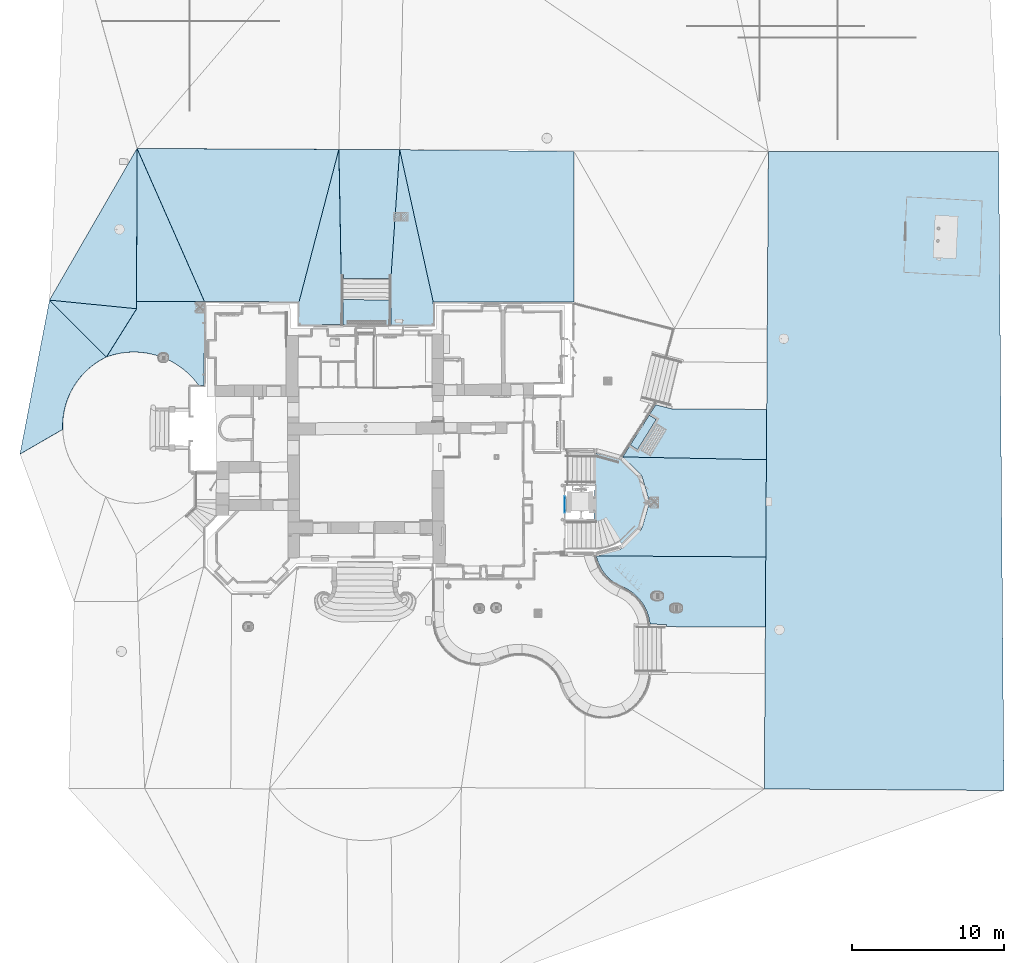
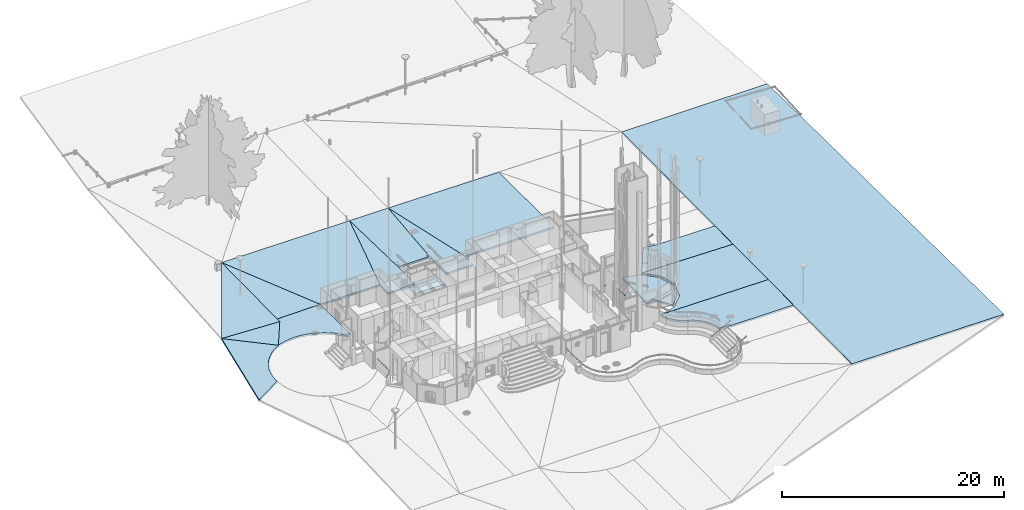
# One storey, part 7 of 133: 17 slabs, 1 plate, 1 element without a shape of its own.
"""IFC2X3 building model written with IfcOpenShell, lengths in centimetres."""

import ifcopenshell
import ifcopenshell.guid

model = None  # the IFC model being written
_history = None  # IfcOwnerHistory: only IFC2X3 demands one
_inside = {}  # id of a spatial element -> (the spatial element, [elements in it])
_under = {}  # id of a project, library or spatial element -> (it, [spatial elements below it])
_declared = {}  # id of a project -> (the project, [libraries it declares])
_typed = {}  # id of a type object -> (the type object, [elements of that type])
_made_of = {}  # id of a material, layer set ... -> (it, [elements and type objects made of it])


def new_model(schema):
    """Start an empty IFC model of exactly this schema.

    Asked for "IFC4X3", IfcOpenShell would pick the latest addendum, in which some entities
    have other attributes; the version numbers below select the first issue.
    IFC2X3 requires an IfcOwnerHistory on every rooted entity: one is made here for all.
    """
    global model, _history
    if schema == "IFC4X3":
        model = ifcopenshell.file(schema_version=(4, 3, 0, 0))
    else:
        model = ifcopenshell.file(schema=schema)
    _inside.clear()
    _under.clear()
    _declared.clear()
    _typed.clear()
    _made_of.clear()
    _history = None
    if model.schema == "IFC2X3":
        org = make("IfcOrganization", Name="unknown")
        user = make(
            "IfcPersonAndOrganization",
            ThePerson=make("IfcPerson", FamilyName="unknown"),
            TheOrganization=org,
        )
        app = make(
            "IfcApplication",
            ApplicationDeveloper=org,
            Version="unknown",
            ApplicationFullName="unknown",
            ApplicationIdentifier="unknown",
        )
        _history = make(
            "IfcOwnerHistory",
            OwningUser=user,
            OwningApplication=app,
            ChangeAction="ADDED",
            CreationDate=0,
        )
    return model


def make(cls, **values):
    """One entity of the class cls with the attributes given. An attribute that is None is left unset."""
    return model.create_entity(
        cls, **{name: value for name, value in values.items() if value is not None}
    )


def entity(cls, *values):
    """Any entity or typed value of the class cls, its attributes in the order of the schema. None: left unset."""
    e = model.create_entity(cls)
    for i, value in enumerate(values):
        if value is not None:
            e[i] = value
    return e


def rooted(cls, **values):
    """An entity with a GlobalId (a new one), such as an element, a storey or a relation."""
    return make(cls, GlobalId=ifcopenshell.guid.new(), OwnerHistory=_history, **values)


def si_unit(unit_type, name, prefix=None):
    """IfcSIUnit, for example si_unit("LENGTHUNIT", "METRE", prefix="MILLI")."""
    return make("IfcSIUnit", UnitType=unit_type, Prefix=prefix, Name=name)


def converted_unit(unit_type, name, factor, base, dimensions=None, offset=None):
    """IfcConversionBasedUnit, such as the inch: factor (a typed value) times the base unit."""
    return make(
        "IfcConversionBasedUnit"
        if offset is None
        else "IfcConversionBasedUnitWithOffset",
        ConversionOffset=offset,
        Dimensions=None
        if dimensions is None
        else entity("IfcDimensionalExponents", *dimensions),
        UnitType=unit_type,
        Name=name,
        ConversionFactor=make(
            "IfcMeasureWithUnit", ValueComponent=factor, UnitComponent=base
        ),
    )


def assignment(units):
    """IfcUnitAssignment: the units of a project."""
    return None if units is None else make("IfcUnitAssignment", Units=units)


def point(xyz):
    """IfcCartesianPoint."""
    return None if xyz is None else make("IfcCartesianPoint", Coordinates=xyz)


def direction(xyz):
    """IfcDirection."""
    return None if xyz is None else make("IfcDirection", DirectionRatios=xyz)


def frame(location, z_axis=None, x_axis=None):
    """IfcAxis2Placement3D, a coordinate frame: its origin and axes. An axis left out is left unset."""
    return make(
        "IfcAxis2Placement3D",
        Location=point(location),
        Axis=direction(z_axis),
        RefDirection=direction(x_axis),
    )


def frame_2d(location, x_axis=None):
    """IfcAxis2Placement2D, a coordinate frame in the plane: its origin and x axis."""
    return make(
        "IfcAxis2Placement2D", Location=point(location), RefDirection=direction(x_axis)
    )


def origin():
    """The frame at (0, 0, 0) with its axes left unset."""
    return frame((0.0, 0.0, 0.0))


def origin_with_axes():
    """The frame at (0, 0, 0) with the z axis (0, 0, 1) and the x axis (1, 0, 0) written out."""
    return frame((0.0, 0.0, 0.0), z_axis=(0.0, 0.0, 1.0), x_axis=(1.0, 0.0, 0.0))


def place(relative_to, where):
    """IfcLocalPlacement: puts the frame where relative to a parent placement (None: the world)."""
    return make(
        "IfcLocalPlacement", PlacementRelTo=relative_to, RelativePlacement=where
    )


def context(
    kind, dimensions, precision=None, world=None, true_north=None, identifier=None
):
    """IfcGeometricRepresentationContext, for example the 3D "Model" context."""
    return make(
        "IfcGeometricRepresentationContext",
        ContextIdentifier=identifier,
        ContextType=kind,
        CoordinateSpaceDimension=dimensions,
        Precision=precision,
        WorldCoordinateSystem=world,
        TrueNorth=true_north,
    )


def subcontext(parent, identifier, kind, view, scale=None):
    """IfcGeometricRepresentationSubContext, for example "Body" below "Model"."""
    return make(
        "IfcGeometricRepresentationSubContext",
        ContextIdentifier=identifier,
        ContextType=kind,
        ParentContext=parent,
        TargetScale=scale,
        TargetView=view,
    )


def project(units=None, contexts=None):
    """IfcProject with its units and contexts."""
    return rooted(
        "IfcProject",
        Name="project",
        RepresentationContexts=contexts,
        UnitsInContext=assignment(units),
    )


def spatial(cls, under=None, at=None, **own):
    """A site, building, storey or space (cls), placed at a placement, below another one or the project."""
    s = rooted(cls, ObjectPlacement=at, **own)
    if under is not None:
        _under.setdefault(under.id(), (under, []))[1].append(s)
    return s


def polyline(points):
    """IfcPolyline through the points."""
    return make("IfcPolyline", Points=[point(p) for p in points])


def circle_curve(where, radius):
    """IfcCircle in the frame where."""
    return make("IfcCircle", Position=where, Radius=radius)


def trimmed(basis, trim1, trim2, sense, master):
    """IfcTrimmedCurve: the piece of a basis curve between two trims."""
    return make(
        "IfcTrimmedCurve",
        BasisCurve=basis,
        Trim1=trim1,
        Trim2=trim2,
        SenseAgreement=sense,
        MasterRepresentation=master,
    )


def segment(curve, same_sense, transition):
    """IfcCompositeCurveSegment."""
    return make(
        "IfcCompositeCurveSegment",
        Transition=transition,
        SameSense=same_sense,
        ParentCurve=curve,
    )


def composite_curve(segments, self_intersect=None):
    """IfcCompositeCurve: segments joined end to end."""
    return make("IfcCompositeCurve", Segments=segments, SelfIntersect=self_intersect)


def outline(outer, holes=None, kind="AREA"):
    """IfcArbitraryClosedProfileDef: a profile drawn as a closed curve; with holes, ...WithVoids."""
    if holes is None:
        return make("IfcArbitraryClosedProfileDef", ProfileType=kind, OuterCurve=outer)
    return make(
        "IfcArbitraryProfileDefWithVoids",
        ProfileType=kind,
        OuterCurve=outer,
        InnerCurves=holes,
    )


def extrude(swept, where, along, depth):
    """IfcExtrudedAreaSolid: the profile swept, set in the frame where, extruded along a direction by depth."""
    return make(
        "IfcExtrudedAreaSolid",
        SweptArea=swept,
        Position=where,
        ExtrudedDirection=direction(along),
        Depth=depth,
    )


def faces_of(points, faces, orient=None, outer=None):
    """IfcFace entities. A face is a list of loops; a loop is a list of indices into points, from 0.

    orient and outer hold one flag for each loop. By default every Orientation is true, the
    first loop of a face is its IfcFaceOuterBound and the others are IfcFaceBound.
    """
    made = []
    for i, loops in enumerate(faces):
        bounds = []
        for j, loop in enumerate(loops):
            is_outer = j == 0 if outer is None else outer[i][j]
            bounds.append(
                make(
                    "IfcFaceOuterBound" if is_outer else "IfcFaceBound",
                    Bound=make("IfcPolyLoop", Polygon=[points[k] for k in loop]),
                    Orientation=True if orient is None else orient[i][j],
                )
            )
        made.append(make("IfcFace", Bounds=bounds))
    return made


def faceted_brep(points, faces, orient=None, outer=None, voids=None):
    """IfcFacetedBrep: a solid bounded by flat faces; with voids (closed shells), ...WithVoids."""
    shared = [point(p) for p in points]
    hull = make("IfcClosedShell", CfsFaces=faces_of(shared, faces, orient, outer))
    if voids is None:
        return make("IfcFacetedBrep", Outer=hull)
    return make(
        "IfcFacetedBrepWithVoids",
        Outer=hull,
        Voids=[
            make(cls, CfsFaces=faces_of(shared, fs, o, b)) for cls, fs, o, b in voids
        ],
    )


def shape(context_of_items, identifier, shape_type, items):
    """IfcShapeRepresentation: the items that make up one representation, for example the "Body"."""
    return make(
        "IfcShapeRepresentation",
        ContextOfItems=context_of_items,
        RepresentationIdentifier=identifier,
        RepresentationType=shape_type,
        Items=items,
    )


def source(mapping_origin, context_of_items, identifier, shape_type, items):
    """IfcRepresentationMap: a shape defined once, which mapped items show again and again."""
    return make(
        "IfcRepresentationMap",
        MappingOrigin=mapping_origin,
        MappedRepresentation=shape(context_of_items, identifier, shape_type, items),
    )


def transform(
    local_origin,
    x_axis=None,
    y_axis=None,
    z_axis=None,
    scale=None,
    scale2=None,
    scale3=None,
    uniform=True,
):
    """IfcCartesianTransformationOperator3D, or its non-uniform kind. x_axis, y_axis, z_axis: its Axis1, 2, 3."""
    if uniform:
        return make(
            "IfcCartesianTransformationOperator3D",
            Axis1=direction(x_axis),
            Axis2=direction(y_axis),
            LocalOrigin=point(local_origin),
            Scale=scale,
            Axis3=direction(z_axis),
        )
    return make(
        "IfcCartesianTransformationOperator3DnonUniform",
        Axis1=direction(x_axis),
        Axis2=direction(y_axis),
        LocalOrigin=point(local_origin),
        Scale=scale,
        Axis3=direction(z_axis),
        Scale2=scale2,
        Scale3=scale3,
    )


def mapped(mapping_source, mapping_target):
    """IfcMappedItem: shows the shape of a source again, moved by a transform."""
    return make(
        "IfcMappedItem", MappingSource=mapping_source, MappingTarget=mapping_target
    )


def material(Name=None, Category=None):
    """IfcMaterial."""
    return make("IfcMaterial", Name=Name, Category=Category)


def layer(
    of_material, thickness, ventilated=None, Name=None, Category=None, Priority=None
):
    """IfcMaterialLayer: one layer of a wall or slab, of a material (None: an air gap)."""
    return make(
        "IfcMaterialLayer",
        Material=of_material,
        LayerThickness=thickness,
        IsVentilated=ventilated,
        Name=Name,
        Category=Category,
        Priority=Priority,
    )


def layer_set(layers, Name=None):
    """IfcMaterialLayerSet."""
    return make("IfcMaterialLayerSet", MaterialLayers=layers, LayerSetName=Name)


def layer_usage(for_layer_set, set_direction, sense, offset, extent=None):
    """IfcMaterialLayerSetUsage: how a layer set lies in its element."""
    return make(
        "IfcMaterialLayerSetUsage",
        ForLayerSet=for_layer_set,
        LayerSetDirection=set_direction,
        DirectionSense=sense,
        OffsetFromReferenceLine=offset,
        ReferenceExtent=extent,
    )


def made_of(thing, what):
    """Note that an element or type object is made of a material, layer set ...; save() writes the relation."""
    if what is not None:
        _made_of.setdefault(what.id(), (what, []))[1].append(thing)
    return thing


def type_object(cls, material=None, **own):
    """A type object (cls), such as IfcWallType, which elements share."""
    return made_of(rooted(cls, **own), material)


def element(
    cls,
    number,
    at=None,
    inside=None,
    cuts=None,
    type_object=None,
    material=None,
    context=None,
    identifier="Body",
    shape_type=None,
    held_by="IfcProductDefinitionShape",
    body=None,
    shapes=None,
    **own,
):
    """One element of the class cls, such as IfcWall. Its Tag is "e" and its number.

    at: its placement. inside: the storey or other place that contains it. cuts: it is an
    opening in that element (IfcRelVoidsElement). A single representation is given by context,
    identifier, shape_type and body (its items); several are given by shapes. held_by: the class
    of the entity that holds the representations. save() writes the other relations.
    """
    e = rooted(cls, Tag="e%d" % number, ObjectPlacement=at, **own)
    if body is not None:
        shapes = [shape(context, identifier, shape_type, body)]
    if shapes is not None:
        e.Representation = make(held_by, Representations=shapes)
    if inside is not None:
        _inside.setdefault(inside.id(), (inside, []))[1].append(e)
    if cuts is not None:
        rooted(
            "IfcRelVoidsElement", RelatingBuildingElement=cuts, RelatedOpeningElement=e
        )
    if type_object is not None:
        _typed.setdefault(type_object.id(), (type_object, []))[1].append(e)
    return made_of(e, material)


def aggregate(whole, parts):
    """IfcRelAggregates: a whole, such as a stair, and the parts it consists of."""
    return rooted("IfcRelAggregates", RelatingObject=whole, RelatedObjects=parts)


def save(model, path):
    """Write the relations noted so far, then the file.

    IfcRelAggregates (storeys below a building ...), IfcRelContainedInSpatialStructure (elements
    in a storey), IfcRelDefinesByType, IfcRelAssociatesMaterial and IfcRelDeclares: one each for
    every whole, place, type object, material and project.
    """
    for whole, parts in _under.values():
        aggregate(whole, parts)
    for where, things in _inside.values():
        rooted(
            "IfcRelContainedInSpatialStructure",
            RelatedElements=things,
            RelatingStructure=where,
        )
    for kind, things in _typed.values():
        rooted("IfcRelDefinesByType", RelatedObjects=things, RelatingType=kind)
    for what, things in _made_of.values():
        rooted("IfcRelAssociatesMaterial", RelatedObjects=things, RelatingMaterial=what)
    for by, libraries in _declared.values():
        rooted("IfcRelDeclares", RelatingContext=by, RelatedDefinitions=libraries)
    model.write(path)


model = new_model("IFC2X3")

# Units and contexts
model_context = context("Model", 3, precision=0.0001, world=origin(), true_north=direction((0.225632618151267, 0.974212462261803, 0.0)))
body_context = subcontext(model_context, "Body", "Model", "MODEL_VIEW")
ifc_project = project(units=[si_unit("LENGTHUNIT", "METRE", prefix="CENTI"), si_unit("AREAUNIT", "SQUARE_METRE", prefix="CENTI"), si_unit("VOLUMEUNIT", "CUBIC_METRE", prefix="CENTI"), converted_unit("PLANEANGLEUNIT", "DEGREE", entity("IfcRatioMeasure", 0.0174532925), si_unit("PLANEANGLEUNIT", "RADIAN"), dimensions=[0, 0, 0, 0, 0, 0, 0])], contexts=[model_context])

# Site, building, storey
site_placement = place(None, origin_with_axes())
site = spatial("IfcSite", under=ifc_project, at=site_placement, Name="Default Site", CompositionType="ELEMENT")
building_placement = place(site_placement, origin_with_axes())
building = spatial("IfcBuilding", under=site, at=building_placement, Name="Default Building", CompositionType="ELEMENT")
storey_placement = place(building_placement, frame((0.0, 0.0, -291.400371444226), z_axis=(0.0, 0.0, 1.0), x_axis=(1.0, 0.0, 0.0)))
storey = spatial("IfcBuildingStorey", under=building, at=storey_placement, Name="Rez-de-Jardin", CompositionType="ELEMENT", Elevation=-291.400371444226)

# Assembly, plate
building_element_proxy_type = type_object("IfcBuildingElementProxyType", Name="Type Object", PredefinedType="NOTDEFINED")
assembly_placement = place(storey_placement, frame((1100.03021133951, -507.337804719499, 212.999999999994), z_axis=(0.0, 0.0, 1.0), x_axis=(-0.000186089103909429, -0.999999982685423, 0.0)))
assembly = element("IfcElementAssembly", 1, at=assembly_placement, inside=storey, type_object=building_element_proxy_type, Name="Panneau 1527830", ObjectType="Precast panel", PredefinedType="USERDEFINED")
ifc_material_1 = material(Name="Aluminium mat")
shared_shape = source(origin_with_axes(), body_context, "Body", "Brep", [
    faceted_brep([(108.000004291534, 10.0000001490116, -0.999999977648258), (108.000004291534, 0.0, -0.999999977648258), (0.0, 0.0, -0.999999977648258), (0.0, 10.0000001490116, -0.999999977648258), (0.0, 10.0000001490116, 0.999999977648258), (0.0, 0.0, 0.999999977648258), (108.000004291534, 0.0, 0.999999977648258), (108.000004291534, 10.0000001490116, 0.999999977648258)], [[[0, 1, 2, 3]], [[4, 5, 6, 7]], [[3, 2, 5, 4]], [[2, 1, 6, 5]], [[1, 0, 7, 6]], [[0, 3, 4, 7]]]),
])
plate_placement = place(assembly_placement, frame((108.000004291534, 1.99999997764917, 10.0000001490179), z_axis=(9.72258298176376e-17, 1.0, 0.0), x_axis=(0.0, 0.0, 1.0)))
plate = element("IfcPlate", 2, at=plate_placement, material=ifc_material_1, Name="4294967253", context=body_context, shape_type="MappedRepresentation", body=[
    mapped(shared_shape, transform((-10.0000001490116, -108.000004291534, -0.999999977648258), x_axis=(0.0, 1.0, 2.71050543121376e-20), y_axis=(1.0, 0.0, 0.0), z_axis=(0.0, 2.71050543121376e-20, -1.0), scale=1.0, scale2=1.0, scale3=1.0, uniform=False)),
])
aggregate(assembly, [plate])

# Slabs
ifc_material_2 = material(Name="Carreaux en céramique")
ifc_layer_1 = layer(ifc_material_2, 1.5)
ifc_material_3 = material(Name="Chape en béton léger")
ifc_layer_2 = layer(ifc_material_3, 4.0)
ifc_material_4 = material(Name="Béton armé")
ifc_layer_3 = layer(ifc_material_4, 13.0)
ifc_material_5 = material(Name="Enduit de chaux et plâtre")
ifc_layer_4 = layer(ifc_material_5, 1.5)
ifc_layer_set_1 = layer_set([ifc_layer_1, ifc_layer_2, ifc_layer_3, ifc_layer_4], Name="Dalle en béton armé")
ifc_layer_usage_1 = layer_usage(ifc_layer_set_1, "AXIS3", "POSITIVE", 0.0)
slab_type_1 = type_object("IfcSlabType", Name="Dalle en béton armé 200", PredefinedType="NOTDEFINED", material=ifc_layer_set_1)
slab_1_placement = place(storey_placement, frame((2437.96991825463, 1757.92197781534, 87.0003726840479), z_axis=(-0.000330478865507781, 0.000121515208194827, 0.999999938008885), x_axis=(0.999999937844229, -0.00012282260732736, 0.000330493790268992)))
element("IfcSlab", 3, at=slab_1_placement, inside=storey, type_object=slab_type_1, material=ifc_layer_usage_1, Name="Dalle 1824250", PredefinedType="NOTDEFINED", context=body_context, shape_type="SweptSolid", body=[
    extrude(outline(polyline([(0.00880565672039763, 6.14636689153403e-13), (-26.2166722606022, -4187.46723701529), (1547.97689839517, -4197.32779013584), (1512.88764695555, 1.62286850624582e-10), (0.00880565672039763, 6.14636689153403e-13)])), origin_with_axes(), (0.0, 0.0, 1.0), 20.0),
])
ifc_layer_usage_2 = layer_usage(ifc_layer_set_1, "AXIS3", "POSITIVE", 0.0)
slab_2_placement = place(storey_placement, frame((-1908.5138583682, 406.669043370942, 84.1172702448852), z_axis=(-0.0330437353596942, 0.0244392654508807, 0.99915505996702), x_axis=(0.530088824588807, 0.847936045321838, -0.0032095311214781)))
element("IfcSlab", 4, at=slab_2_placement, inside=storey, type_object=slab_type_1, material=ifc_layer_usage_2, Name="Dalle 1824266", PredefinedType="NOTDEFINED", context=body_context, shape_type="SweptSolid", body=[
    extrude(outline(polyline([(118.591488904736, 515.434416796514), (0.0, 0.0), (373.884469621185, 5.60294866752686e-06), (118.591488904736, 515.434416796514)])), origin_with_axes(), (0.0, 0.0, 1.0), 20.0),
])
ifc_layer_usage_3 = layer_usage(ifc_layer_set_1, "AXIS3", "POSITIVE", 0.0)
slab_3_placement = place(storey_placement, frame((-2195.14699923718, -68.6104163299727, 79.420477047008), z_axis=(-0.0420634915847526, 0.0154987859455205, 0.998994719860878), x_axis=(0.516511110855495, 0.856238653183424, 0.00846410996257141)))
element("IfcSlab", 5, at=slab_3_placement, inside=storey, type_object=slab_type_1, material=ifc_layer_usage_3, Name="Dalle 1824265", PredefinedType="NOTDEFINED", context=body_context, shape_type="SweptSolid", body=[
    extrude(outline(composite_curve([segment(trimmed(circle_curve(frame_2d((277.631976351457, -417.967700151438), x_axis=(1.0, 0.0)), 501.774445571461), [point((555.268053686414, -0.00143023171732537))], [point((-0.0165764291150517, -0.00971737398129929))], True, "CARTESIAN"), True, "CONTINUOUS"), segment(polyline([(-0.0165764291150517, -0.00971737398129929), (-283.822259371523, 156.688716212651), (681.804777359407, 513.54638622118), (555.268053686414, -0.00143023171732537)]), True, "CONTINUOUS")], self_intersect=False)), origin_with_axes(), (0.0, 0.0, 1.0), 20.0),
])
ifc_layer_usage_4 = layer_usage(ifc_layer_set_1, "AXIS3", "POSITIVE", 0.0)
slab_4_placement = place(storey_placement, frame((-2281.98027490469, 780.541250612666, 62.6143206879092), z_axis=(-0.0363302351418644, -0.00863434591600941, 0.999302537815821), x_axis=(0.99458620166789, -0.0977301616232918, 0.0353143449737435)))
element("IfcSlab", 6, at=slab_4_placement, inside=storey, type_object=slab_type_1, material=ifc_layer_usage_4, Name="Dalle 1824268", PredefinedType="NOTDEFINED", context=body_context, shape_type="SweptSolid", body=[
    extrude(outline(polyline([(-0.356973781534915, 0.253461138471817), (574.478679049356, -8.77858621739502e-05), (475.156119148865, 1047.90751001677), (-0.356973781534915, 0.253461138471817)])), origin_with_axes(), (0.0, 0.0, 1.0), 20.0),
])
ifc_layer_usage_5 = layer_usage(ifc_layer_set_1, "AXIS3", "POSITIVE", 0.0)
slab_type_2 = type_object("IfcSlabType", Name="Dalle en béton armé 200", PredefinedType="NOTDEFINED", material=ifc_layer_set_1)
slab_5_placement = place(storey_placement, frame((1758.86192265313, -1092.94462424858, 86.5), z_axis=(0.0, 0.0, 1.0), x_axis=(1.0, 0.0, 0.0)))
element("IfcSlab", 7, at=slab_5_placement, inside=storey, type_object=slab_type_2, material=ifc_layer_usage_5, Name="Dalle 294730", PredefinedType="NOTDEFINED", context=body_context, shape_type="SweptSolid", body=[
    extrude(outline(composite_curve([segment(trimmed(circle_curve(frame_2d((-144.502559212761, 266.577171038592), x_axis=(1.0, 0.0)), 315.079470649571), [point((-442.94533078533, 165.547547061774))], [point((-423.230556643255, 119.656184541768))], True, "CARTESIAN"), True, "CONTINUOUS"), segment(trimmed(circle_curve(frame_2d((-183.475550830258, 244.829510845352), x_axis=(1.0, 0.0)), 270.46409083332), [point((-423.230556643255, 119.656184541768))], [point((-284.145022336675, -6.20132777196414))], True, "CARTESIAN"), True, "CONTINUOUS"), segment(trimmed(circle_curve(frame_2d((-395.655865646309, -283.639852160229), x_axis=(1.0, 0.0)), 299.009703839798), [point((-284.145022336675, -6.20132777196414))], [point((-169.619349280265, -87.8994724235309))], False, "CARTESIAN"), True, "CONTINUOUS"), segment(trimmed(circle_curve(frame_2d((-394.445843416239, -282.879956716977), x_axis=(1.0, 0.0)), 297.597617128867), [point((-169.619349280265, -87.8994724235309))], [point((-98.2632560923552, -253.893465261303))], False, "CARTESIAN"), True, "CONTINUOUS"), segment(polyline([(-98.2632560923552, -253.893465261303), (10.9509134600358, -256.377247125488), (10.6144143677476, -271.173421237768), (659.161436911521, -273.012696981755), (662.098112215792, 186.905022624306), (-451.945524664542, 194.018435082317), (-442.94533078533, 165.547547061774)]), True, "CONTINUOUS")], self_intersect=False)), origin_with_axes(), (0.0, 0.0, 1.0), 20.0),
])
ifc_layer_usage_6 = layer_usage(ifc_layer_set_1, "AXIS3", "POSITIVE", 0.0)
slab_6_placement = place(storey_placement, frame((1776.3986500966, -415.836489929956, 86.5), z_axis=(0.0, 0.0, 1.0), x_axis=(1.0, 0.0, 0.0)))
element("IfcSlab", 8, at=slab_6_placement, inside=storey, type_object=slab_type_2, material=ifc_layer_usage_6, Name="Dalle 294962", PredefinedType="NOTDEFINED", context=body_context, shape_type="SweptSolid", body=[
    extrude(outline(polyline([(648.639111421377, 148.416601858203), (644.561384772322, -490.203111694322), (-469.482252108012, -483.089699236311), (-321.534280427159, -443.368343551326), (-292.434163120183, -430.336626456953), (-177.930693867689, -315.523230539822), (-167.875886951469, -297.689292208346), (-123.885163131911, -147.353436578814), (-115.161413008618, -147.63248019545), (-115.651419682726, -115.397755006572), (-123.413338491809, -115.74899458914), (-166.308590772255, 33.366685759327), (-175.889595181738, 51.2707908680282), (-290.897590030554, 162.996410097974), (-294.338656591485, 166.623952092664), (648.639111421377, 148.416601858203)])), origin_with_axes(), (0.0, 0.0, 1.0), 20.0),
])
ifc_layer_usage_7 = layer_usage(ifc_layer_set_1, "AXIS3", "POSITIVE", 0.0)
slab_7_placement = place(storey_placement, frame((1804.07312547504, 67.2349375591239, 88.0003764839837), z_axis=(0.00124502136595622, -0.00600815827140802, 0.999981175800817), x_axis=(0.999978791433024, -0.00638510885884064, -0.00128338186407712)))
element("IfcSlab", 9, at=slab_7_placement, inside=storey, type_object=slab_type_2, material=ifc_layer_usage_7, Name="Dalle 294961", PredefinedType="NOTDEFINED", context=body_context, shape_type="SweptSolid", body=[
    extrude(outline(polyline([(6.72423931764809e-05, -1.62893976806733e-05), (-105.640566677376, 25.5913129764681), (-320.011636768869, -318.37712488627), (623.063164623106, -330.563081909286), (623.063155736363, 4.6081346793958e-07), (6.72423931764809e-05, -1.62893976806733e-05)])), origin_with_axes(), (0.0, 0.0, 1.0), 20.0),
])
ifc_layer_usage_8 = layer_usage(ifc_layer_set_1, "AXIS3", "POSITIVE", 0.0)
slab_8_placement = place(storey_placement, frame((-1265.12776206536, 771.117081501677, 88.0001675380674), z_axis=(-9.74691148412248e-06, -0.00409312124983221, 0.99999162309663), x_axis=(0.999997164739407, -0.00238128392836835, 0.0)))
element("IfcSlab", 10, at=slab_8_placement, inside=storey, type_object=slab_type_2, material=ifc_layer_usage_8, Name="Dalle 294951", PredefinedType="NOTDEFINED", context=body_context, shape_type="SweptSolid", body=[
    extrude(outline(polyline([(-9.50410040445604e-05, 9.69646674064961e-07), (621.004627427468, -0.0183895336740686), (880.13401820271, 1001.8218519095), (-445.367701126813, 1004.69885197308), (-9.50410040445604e-05, 9.69646674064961e-07)])), origin_with_axes(), (0.0, 0.0, 1.0), 20.0),
])
ifc_layer_usage_9 = layer_usage(ifc_layer_set_1, "AXIS3", "POSITIVE", 0.0)
slab_9_placement = place(storey_placement, frame((-1707.84568769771, 1776.97780983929, 92.1029579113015), z_axis=(-0.0128127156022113, -0.00971927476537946, 0.999870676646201), x_axis=(0.403073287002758, -0.915160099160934, -0.0037307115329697)))
element("IfcSlab", 11, at=slab_9_placement, inside=storey, type_object=slab_type_2, material=ifc_layer_usage_9, Name="Dalle 294950", PredefinedType="NOTDEFINED", context=body_context, shape_type="SweptSolid", body=[
    extrude(outline(polyline([(918.118699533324, -407.491312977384), (1098.97842042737, 1.77635683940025e-13), (1.6254210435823e-13, -7.16554291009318e-14), (918.118699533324, -407.491312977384)])), origin_with_axes(), (0.0, 0.0, 1.0), 20.0),
])
ifc_layer_usage_10 = layer_usage(ifc_layer_set_1, "AXIS3", "POSITIVE", 0.0)
slab_10_placement = place(storey_placement, frame((-1908.91869727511, 406.918974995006, 84.1034366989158), z_axis=(-0.0128017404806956, 0.0119422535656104, 0.999846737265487), x_axis=(0.955475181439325, -0.294650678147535, 0.0157529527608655)))
element("IfcSlab", 12, at=slab_10_placement, inside=storey, type_object=slab_type_2, material=ifc_layer_usage_10, Name="Dalle 294949", PredefinedType="NOTDEFINED", context=body_context, shape_type="SweptSolid", body=[
    extrude(outline(composite_curve([segment(trimmed(circle_curve(frame_2d((317.400403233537, -416.309669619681), x_axis=(1.0, 0.0)), 523.504304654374), [point((634.801036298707, -0.000175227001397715))], [point((0.0, 0.0))], True, "CARTESIAN"), True, "CONTINUOUS"), segment(polyline([(0.0, 0.0), (95.9351904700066, 361.369057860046), (81.8077347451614, 407.380991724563), (508.213442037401, 537.526420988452), (668.442188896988, 10.0387795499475), (634.801036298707, -0.000175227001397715)]), True, "CONTINUOUS")], self_intersect=False)), origin_with_axes(), (0.0, 0.0, 1.0), 20.0),
])
ifc_layer_usage_11 = layer_usage(ifc_layer_set_1, "AXIS3", "POSITIVE", 0.0)
slab_11_placement = place(storey_placement, frame((-382.272745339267, 1770.74652770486, 92.1032119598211), z_axis=(-0.0168504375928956, 0.000306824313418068, 0.999857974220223), x_axis=(0.0179375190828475, -0.99983892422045, 0.000609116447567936)))
element("IfcSlab", 13, at=slab_11_placement, inside=storey, type_object=slab_type_2, material=ifc_layer_usage_11, Name="Dalle 294952", PredefinedType="NOTDEFINED", context=body_context, shape_type="SweptSolid", body=[
    extrude(outline(polyline([(996.344089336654, -279.480441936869), (1148.24187154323, -285.480796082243), (1150.71627418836, -8.56706402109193), (820.861049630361, 0.0), (-0.00135869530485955, 6.78358210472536e-08), (996.344089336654, -279.480441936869)])), origin_with_axes(), (0.0, 0.0, 1.0), 20.0),
])
ifc_layer_usage_12 = layer_usage(ifc_layer_set_1, "AXIS3", "POSITIVE", 0.0)
slab_12_placement = place(storey_placement, frame((16.8775602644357, 1768.92517126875, 92.0000025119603), z_axis=(5.10834940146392e-06, 0.000501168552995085, 0.999999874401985), x_axis=(0.99994805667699, -0.0101923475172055, 0.0)))
element("IfcSlab", 14, at=slab_12_placement, inside=storey, type_object=slab_type_2, material=ifc_layer_usage_12, Name="Dalle 294955", PredefinedType="NOTDEFINED", context=body_context, shape_type="SweptSolid", body=[
    extrude(outline(polyline([(1.38047347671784e-05, -3.75882848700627e-10), (230.519918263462, -998.358014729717), (1155.2185369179, -990.454399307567), (1144.64476809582, -0.0311837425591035), (1.38047347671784e-05, -3.75882848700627e-10)])), origin_with_axes(), (0.0, 0.0, 1.0), 20.0),
])
ifc_layer_usage_13 = layer_usage(ifc_layer_set_1, "AXIS3", "POSITIVE", 0.0)
slab_13_placement = place(storey_placement, frame((16.8699372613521, 1768.92371002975, 92.0003763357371), z_axis=(0.000384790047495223, 0.000584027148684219, 0.999999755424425), x_axis=(0.21503685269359, -0.976605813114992, 0.000487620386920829)))
element("IfcSlab", 15, at=slab_13_placement, inside=storey, type_object=slab_type_2, material=ifc_layer_usage_13, Name="Dalle 294954", PredefinedType="NOTDEFINED", context=body_context, shape_type="SweptSolid", body=[
    extrude(outline(polyline([(0.000724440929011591, -9.68099835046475e-05), (787.469029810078, -230.612707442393), (1111.16263696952, -302.883686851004), (1171.66907219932, -31.2369106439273), (1078.25495274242, -11.6236631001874), (1024.62605986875, 0.00687563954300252), (0.000724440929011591, -9.68099835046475e-05)])), origin_with_axes(), (0.0, 0.0, 1.0), 20.0),
])
ifc_layer_usage_14 = layer_usage(ifc_layer_set_1, "AXIS3", "POSITIVE", 0.0)
slab_14_placement = place(storey_placement, frame((-39.0102868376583, 950.28651302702, 92.5003756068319), z_axis=(0.000253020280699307, 0.00059349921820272, 0.999999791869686), x_axis=(0.0681046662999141, 0.997677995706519, -0.000609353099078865)))
element("IfcSlab", 16, at=slab_14_placement, inside=storey, type_object=slab_type_2, material=ifc_layer_usage_14, Name="Dalle 294953", PredefinedType="NOTDEFINED", context=body_context, shape_type="SweptSolid", body=[
    extrude(outline(polyline([(795.148277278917, 398.684742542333), (-22.672299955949, 328.098020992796), (-21.7682713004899, 313.125287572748), (-47.4225347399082, 311.631518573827), (-27.7254163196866, 13.2611916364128), (-0.964615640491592, 14.9745320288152), (0.000529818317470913, 0.00561442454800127), (820.542158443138, 0.000209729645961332), (795.148277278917, 398.684742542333)])), origin_with_axes(), (0.0, 0.0, 1.0), 20.0),
])
ifc_material_6 = material(Name="Carreaux en céramique")
ifc_layer_5 = layer(ifc_material_6, 1.5)
ifc_material_7 = material(Name="Chape ordinaire")
ifc_layer_6 = layer(ifc_material_7, 4.0)
ifc_material_8 = material(Name="Dalle plane terre-cuite-ciment isolée")
ifc_layer_7 = layer(ifc_material_8, 22.5)
ifc_material_9 = material(Name="Enduit intérieur")
ifc_layer_8 = layer(ifc_material_9, 1.0)
ifc_layer_set_2 = layer_set([ifc_layer_5, ifc_layer_6, ifc_layer_7, ifc_layer_8], Name="Plancher en brique-ciment")
ifc_layer_usage_15 = layer_usage(ifc_layer_set_2, "AXIS3", "POSITIVE", 0.0)
slab_type_3 = type_object("IfcSlabType", Name="Plancher en brique-ciment 290", PredefinedType="NOTDEFINED", material=ifc_layer_set_2)
slab_15_placement = place(storey_placement, frame((-154.992953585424, 737.512175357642, -29.0), z_axis=(0.0, 0.0, 1.0), x_axis=(1.0, 0.0, 0.0)))
element("IfcSlab", 17, at=slab_15_placement, inside=storey, type_object=slab_type_3, material=ifc_layer_usage_15, Name="Enveloppe horizontale 303680", PredefinedType="NOTDEFINED", context=body_context, shape_type="SweptSolid", body=[
    extrude(outline(polyline([(-200.442364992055, -118.532159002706), (-199.194070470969, 46.7141025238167), (100.48622826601, 44.3608281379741), (99.9972785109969, -118.874486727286), (-200.442364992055, -118.532159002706)])), origin_with_axes(), (0.0, 0.0, 1.0), 29.0),
])
ifc_material_10 = material(Name="<aucun>")
ifc_layer_9 = layer(ifc_material_10, 10.0)
ifc_layer_set_3 = layer_set([ifc_layer_9], Name="default")
ifc_layer_usage_16 = layer_usage(ifc_layer_set_3, "AXIS3", "POSITIVE", 0.0)
slab_type_4 = type_object("IfcSlabType", Name="default 100", PredefinedType="NOTDEFINED", material=ifc_layer_set_3)
slab_16_placement = place(storey_placement, frame((1666.96380314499, -37.0573650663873, 146.5), z_axis=(0.0, 0.0, 1.0), x_axis=(1.0, 0.0, 0.0)))
element("IfcSlab", 18, at=slab_16_placement, inside=storey, type_object=slab_type_4, material=ifc_layer_usage_16, Name="Enveloppe horizontale 303634", PredefinedType="NOTDEFINED", context=body_context, shape_type="SweptSolid", body=[
    extrude(outline(polyline([(-11.3018236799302, 62.4751609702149), (-134.978703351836, -133.175957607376), (-88.5517178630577, -163.626455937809), (34.8322448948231, 34.3272525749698), (-11.3018236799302, 62.4751609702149)])), origin_with_axes(), (0.0, 0.0, 1.0), 10.0),
])
ifc_layer_10 = layer(ifc_material_10, 17.7)
ifc_layer_set_4 = layer_set([ifc_layer_10], Name="default")
ifc_layer_usage_17 = layer_usage(ifc_layer_set_4, "AXIS3", "POSITIVE", 0.0)
slab_type_5 = type_object("IfcSlabType", Name="default 177", PredefinedType="NOTDEFINED", material=ifc_layer_set_4)
slab_17_placement = place(storey_placement, frame((1499.4249275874, -500.008843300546, 89.2999992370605), z_axis=(0.0, 0.0, 1.0), x_axis=(1.0, 0.0, 0.0)))
element("IfcSlab", 19, at=slab_17_placement, inside=storey, type_object=slab_type_5, material=ifc_layer_usage_17, Name="Enveloppe horizontale 567349", PredefinedType="NOTDEFINED", context=body_context, shape_type="SweptSolid", body=[
    extrude(outline(polyline([(-199.555491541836, 275.864572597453), (-200.408857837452, 69.5396162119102), (-208.474927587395, -177.291156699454), (-149.494927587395, -164.371156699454), (-130.394927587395, -152.581156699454), (-22.354927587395, -322.881156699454), (84.2177284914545, -216.76640003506), (132.459171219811, -49.2258114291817), (85.7935778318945, 116.537295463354), (-36.078933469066, 236.63164171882), (-199.555491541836, 275.864572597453)])), origin_with_axes(), (0.0, 0.0, 1.0), 17.7000007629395),
])

save(model, "model.ifc")
